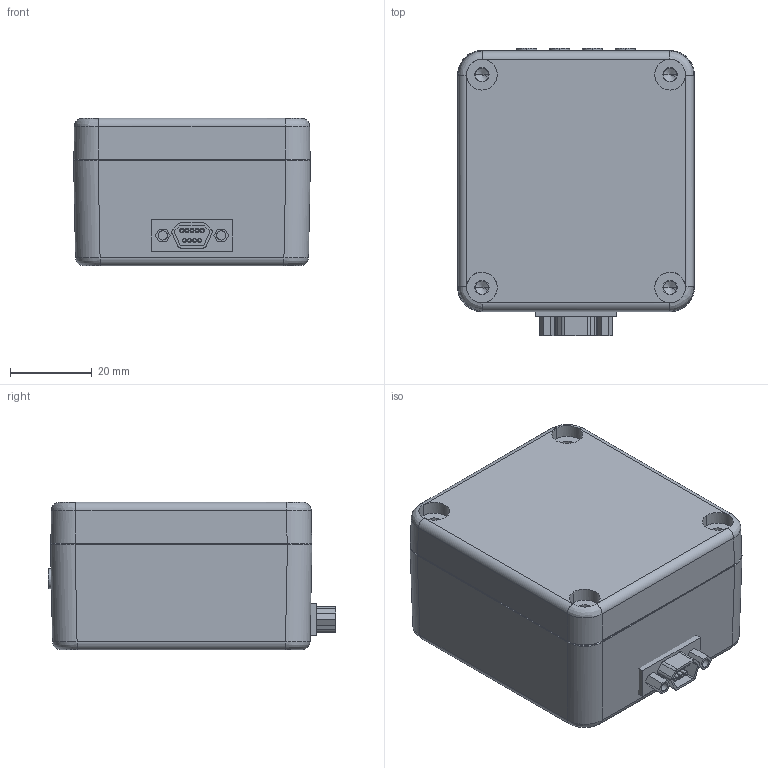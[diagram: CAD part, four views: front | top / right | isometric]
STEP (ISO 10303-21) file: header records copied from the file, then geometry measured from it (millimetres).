
FILE_DESCRIPTION (( 'STEP AP214' ), '1' );
FILE_NAME ('KD5200.STEP', '2010-03-05T20:01:13', ( 'tom edwards' ), ( 'Tom J. Edwards' ), 'SwSTEP 2.0', 'SolidWorks 2008', '' );
FILE_SCHEMA (( 'AUTOMOTIVE_DESIGN' ));
Length unit declared in the file: millimetre
Products named in the file (5): mini db9; Samtec-SMA; KD5200_box; KD5200_lid; KD5200
Assembly tree (7 placements, depth 2):
  KD5200
    Samtec-SMA  x4
    mini db9
    KD5200_box
    KD5200_lid
Bounding box: 57.89 x 70.25 x 36 mm (x, y, z)
Volume: 59762.7 mm3; surface area: 34031.4 mm2
Topology: 7 solids, 7 shells, 561 faces, 1328 edges, 830 vertices
Faces by surface type: cylinder 216, plane 195, bspline 68, cone 62, torus 18, sphere 2
Entity records: 20272 total; most frequent: CARTESIAN_POINT 8768, ORIENTED_EDGE 2416, DIRECTION 2228, EDGE_CURVE 1208, AXIS2_PLACEMENT_3D 837, VERTEX_POINT 764, EDGE_LOOP 582, VECTOR 554
